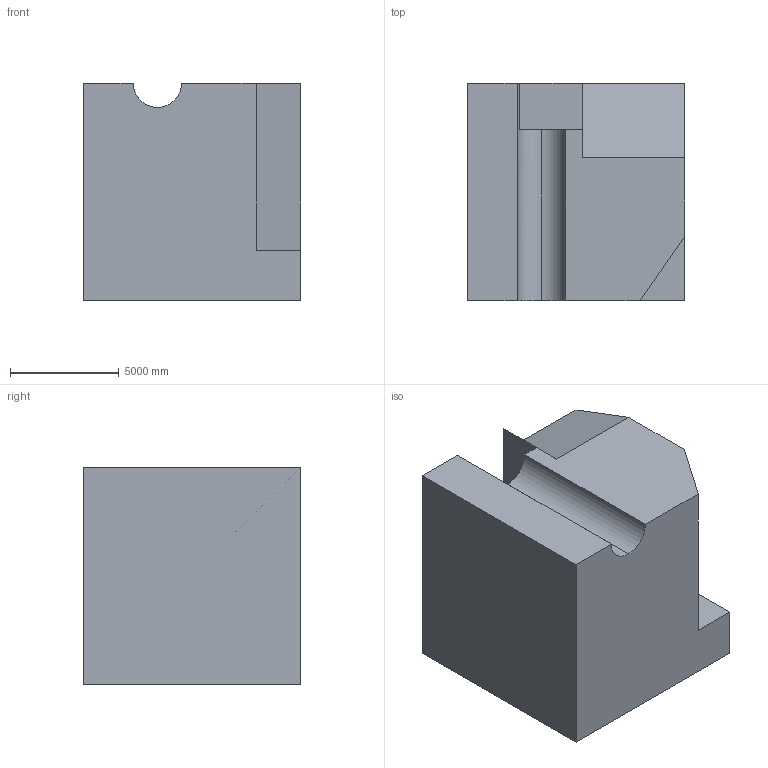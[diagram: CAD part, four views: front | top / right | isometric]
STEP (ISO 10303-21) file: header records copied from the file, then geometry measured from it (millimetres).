
FILE_DESCRIPTION (( 'STEP AP203' ), '1' );
FILE_NAME ('1360.STEP', '2022-08-18T14:02:21', ( 'user' ), ( '' ), 'SwSTEP 2.0', 'SolidWorks 2021', '' );
FILE_SCHEMA (( 'CONFIG_CONTROL_DESIGN' ));
Length unit declared in the file: centimetre
Products named in the file (1): 1360
Bounding box: 10000 x 10000 x 10000 mm (x, y, z)
Volume: 928626933963.5 mm3; surface area: 605665240.9 mm2
Topology: 1 solids, 1 shells, 17 faces, 45 edges, 30 vertices
Faces by surface type: plane 15, cylinder 2
Entity records: 601 total; most frequent: CARTESIAN_POINT 93, ORIENTED_EDGE 90, DIRECTION 86, EDGE_CURVE 45, VECTOR 40, LINE 40, VERTEX_POINT 30, AXIS2_PLACEMENT_3D 23
